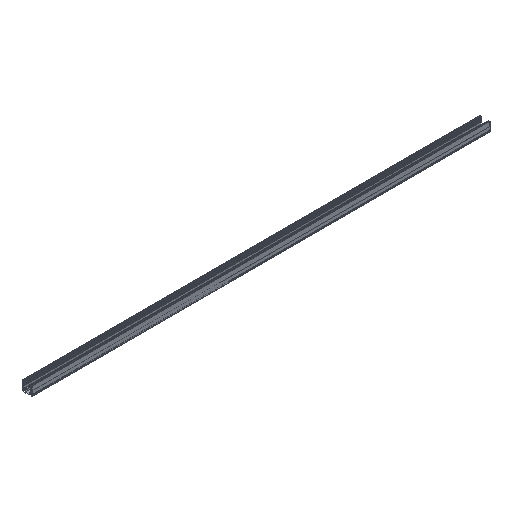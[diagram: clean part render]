
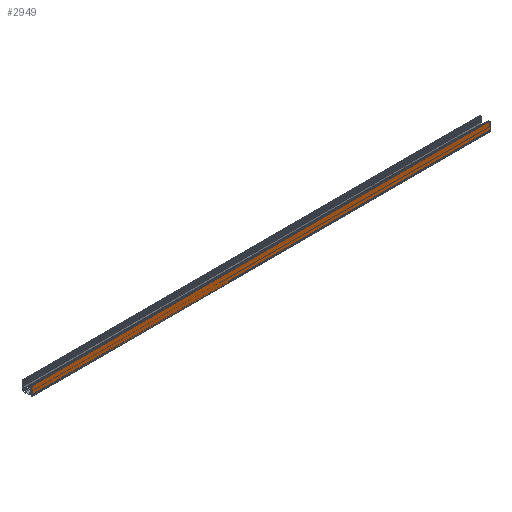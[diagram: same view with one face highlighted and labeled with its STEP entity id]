
A CAD part, isometric view. The second image highlights one B-rep face of the part: STEP entity #2949.
In plain terms, the highlighted planar face has unit normal (0, -1, 0).
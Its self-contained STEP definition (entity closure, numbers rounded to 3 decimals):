
#229=PLANE('',#3144);
#308=FACE_OUTER_BOUND('',#469,.T.);
#469=EDGE_LOOP('',(#2085,#2086,#2087,#2088));
#658=LINE('',#4035,#937);
#659=LINE('',#4038,#938);
#660=LINE('',#4040,#939);
#661=LINE('',#4041,#940);
#937=VECTOR('',#3411,10.);
#938=VECTOR('',#3414,10.);
#939=VECTOR('',#3415,10.);
#940=VECTOR('',#3416,10.);
#1264=VERTEX_POINT('',#4031);
#1265=VERTEX_POINT('',#4033);
#1266=VERTEX_POINT('',#4037);
#1267=VERTEX_POINT('',#4039);
#1594=EDGE_CURVE('',#1264,#1265,#658,.T.);
#1595=EDGE_CURVE('',#1266,#1264,#659,.T.);
#1596=EDGE_CURVE('',#1267,#1265,#660,.T.);
#1597=EDGE_CURVE('',#1266,#1267,#661,.T.);
#2085=ORIENTED_EDGE('',*,*,#1595,.T.);
#2086=ORIENTED_EDGE('',*,*,#1594,.T.);
#2087=ORIENTED_EDGE('',*,*,#1596,.F.);
#2088=ORIENTED_EDGE('',*,*,#1597,.F.);
#2949=ADVANCED_FACE('',(#308),#229,.T.);
#3144=AXIS2_PLACEMENT_3D('',#4036,#3412,#3413);
#3411=DIRECTION('',(1.,0.,0.));
#3412=DIRECTION('center_axis',(0.,-1.,0.));
#3413=DIRECTION('ref_axis',(0.,0.,-1.));
#3414=DIRECTION('',(0.,0.,-1.));
#3415=DIRECTION('',(0.,0.,-1.));
#3416=DIRECTION('',(1.,0.,0.));
#4031=CARTESIAN_POINT('',(0.,-11.,0.5));
#4033=CARTESIAN_POINT('',(1000.,-11.,0.5));
#4035=CARTESIAN_POINT('',(0.,-11.,0.5));
#4036=CARTESIAN_POINT('Origin',(0.,-11.,20.3));
#4037=CARTESIAN_POINT('',(0.,-11.,20.3));
#4038=CARTESIAN_POINT('',(0.,-11.,20.3));
#4039=CARTESIAN_POINT('',(1000.,-11.,20.3));
#4040=CARTESIAN_POINT('',(1000.,-11.,20.3));
#4041=CARTESIAN_POINT('',(0.,-11.,20.3));
